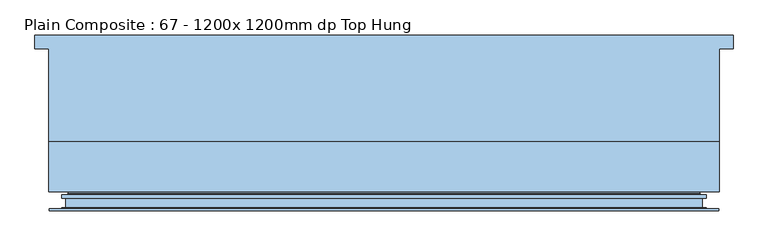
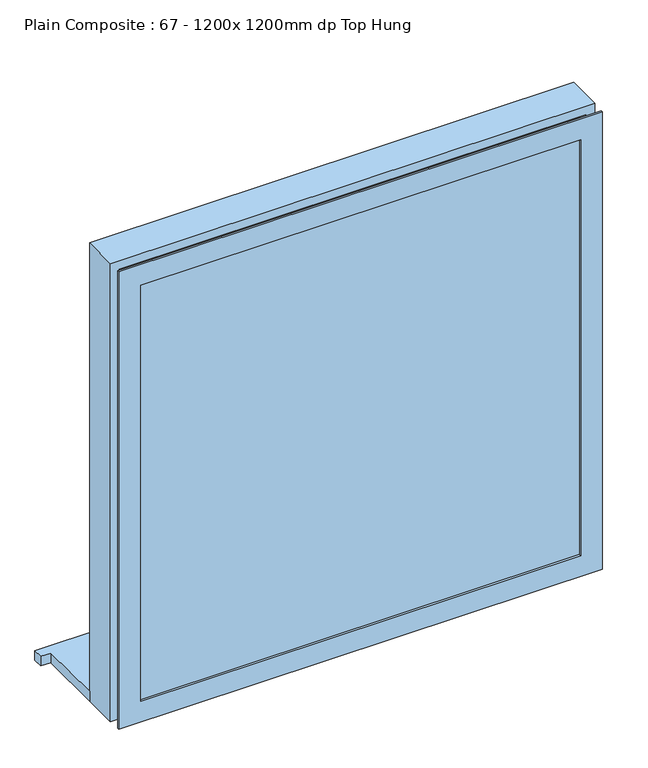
"""IFC4 building model written with IfcOpenShell, lengths in millimetres: window geometry, Plain Composite : 67 - 1200x 1200mm dp Top Hung."""

from ifc_helpers import new_model, si_unit, frame, origin, place, context, project, spatial, polyline, outline, extrude, faceted_brep, source, transform, mapped, element, save


def plain_composite_67_1200x_1200mm_dp_top_hung_607cc014(model_context):
    return source(origin(), model_context, "Body", "SolidModel", [
        extrude(outline(polyline([(-915.0, 161.5434322), (335.0, 161.5434322), (335.0, 136.5434322), (310.0, 136.5434322), (310.0, -29.4565678), (-890.0, -29.4565678), (-890.0, 136.5434322), (-915.0, 136.5434322), (-915.0, 161.5434322)])), frame((0.0, 0.0, 910.0), z_axis=(0.0, 0.0, 1.0), x_axis=(1.0, 0.0, 0.0)), (0.0, 0.0, 1.0), 25.0),
        extrude(outline(polyline([(267.0, -123.4565678), (267.0, -147.4565678), (-847.0, -147.4565678), (-847.0, -123.4565678), (267.0, -123.4565678)])), frame((0.0, 0.0, 953.0), z_axis=(0.0, 0.0, 1.0), x_axis=(1.0, 0.0, 0.0)), (0.0, 0.0, 1.0), 1114.0),
        faceted_brep([(-835.0, -147.4565678, 965.0), (-835.0, -147.4565678, 2055.0), (-835.0, -153.4565678, 2055.0), (-835.0, -153.4565678, 965.0), (-847.0, -123.4565678, 953.0), (-847.0, -123.4565678, 2067.0), (-847.0, -147.4565678, 2067.0), (-847.0, -147.4565678, 953.0), (-835.0, -100.4565678, 965.0), (-835.0, -100.4565678, 2055.0), (-835.0, -123.4565678, 2055.0), (-835.0, -123.4565678, 965.0), (-857.3761005, -103.766907, 942.6238995), (-857.3761005, -103.766907, 2077.3761005), (-857.3761005, -100.4565678, 2077.3761005), (-857.3761005, -100.4565678, 942.6238995), (-855.3055676, -104.9623297, 944.6944324), (-855.3055676, -104.9623297, 2075.3055676), (-855.3055676, -122.3525929, 944.6944324), (-855.3055676, -122.3525929, 2075.3055676), (-860.0, -127.0470253, 940.0), (-860.0, -127.0470253, 2080.0), (-865.0, -125.0470253, 935.0), (-865.0, -125.0470253, 2085.0), (-865.0, -127.0470253, 2085.0), (-865.0, -127.0470253, 935.0), (-867.0, -131.0470253, 933.0), (-867.0, -131.0470253, 2087.0), (-867.0, -125.0470253, 2087.0), (-867.0, -125.0470253, 933.0), (-865.0, -129.0470253, 935.0), (-865.0, -129.0470253, 2085.0), (-865.0, -131.0470253, 2085.0), (-865.0, -131.0470253, 935.0), (-860.0, -149.4565678, 940.0), (-860.0, -149.4565678, 2080.0), (-860.0, -129.0470253, 2080.0), (-860.0, -129.0470253, 940.0), (-865.0, -147.4565678, 935.0), (-865.0, -147.4565678, 2085.0), (-865.0, -149.4565678, 2085.0), (-865.0, -149.4565678, 935.0), (-867.0, -151.4565678, 933.0), (-867.0, -151.4565678, 2087.0), (-867.0, -147.4565678, 2087.0), (-867.0, -147.4565678, 933.0), (-887.0, -149.4565678, 913.0), (-887.0, -149.4565678, 2107.0), (-887.0, -151.4565678, 2107.0), (-887.0, -151.4565678, 913.0), (-889.0, -153.4565678, 911.0), (-889.0, -153.4565678, 2109.0), (-889.0, -149.4565678, 2109.0), (-889.0, -149.4565678, 911.0), (255.0, -147.4565678, 2055.0), (255.0, -153.4565678, 2055.0), (267.0, -123.4565678, 2067.0), (267.0, -147.4565678, 2067.0), (255.0, -100.4565678, 2055.0), (255.0, -123.4565678, 2055.0), (277.3761005, -103.766907, 2077.3761005), (277.3761005, -100.4565678, 2077.3761005), (275.3055676, -104.9623297, 2075.3055676), (275.3055676, -122.3525929, 2075.3055676), (280.0, -127.0470253, 2080.0), (285.0, -125.0470253, 2085.0), (285.0, -127.0470253, 2085.0), (287.0, -131.0470253, 2087.0), (287.0, -125.0470253, 2087.0), (285.0, -129.0470253, 2085.0), (285.0, -131.0470253, 2085.0), (280.0, -149.4565678, 2080.0), (280.0, -129.0470253, 2080.0), (285.0, -147.4565678, 2085.0), (285.0, -149.4565678, 2085.0), (287.0, -151.4565678, 2087.0), (287.0, -147.4565678, 2087.0), (307.0, -149.4565678, 2107.0), (307.0, -151.4565678, 2107.0), (309.0, -153.4565678, 2109.0), (309.0, -149.4565678, 2109.0), (255.0, -147.4565678, 965.0), (255.0, -153.4565678, 965.0), (267.0, -123.4565678, 953.0), (267.0, -147.4565678, 953.0), (255.0, -100.4565678, 965.0), (255.0, -123.4565678, 965.0), (277.3761005, -103.766907, 942.6238995), (277.3761005, -100.4565678, 942.6238995), (275.3055676, -104.9623297, 944.6944324), (275.3055676, -122.3525929, 944.6944324), (280.0, -127.0470253, 940.0), (285.0, -125.0470253, 935.0), (285.0, -127.0470253, 935.0), (287.0, -131.0470253, 933.0), (287.0, -125.0470253, 933.0), (285.0, -129.0470253, 935.0), (285.0, -131.0470253, 935.0), (280.0, -149.4565678, 940.0), (280.0, -129.0470253, 940.0), (285.0, -147.4565678, 935.0), (285.0, -149.4565678, 935.0), (287.0, -151.4565678, 933.0), (287.0, -147.4565678, 933.0), (307.0, -149.4565678, 913.0), (307.0, -151.4565678, 913.0), (309.0, -153.4565678, 911.0), (309.0, -149.4565678, 911.0)], [[[0, 1, 2, 3]], [[4, 5, 6, 7]], [[8, 9, 10, 11]], [[12, 13, 14, 15]], [[16, 17, 13, 12]], [[18, 19, 17, 16]], [[20, 21, 19, 18]], [[22, 23, 24, 25]], [[26, 27, 28, 29]], [[30, 31, 32, 33]], [[34, 35, 36, 37]], [[38, 39, 40, 41]], [[42, 43, 44, 45]], [[46, 47, 48, 49]], [[50, 51, 52, 53]], [[1, 54, 55, 2]], [[5, 56, 57, 6]], [[9, 58, 59, 10]], [[13, 60, 61, 14]], [[17, 62, 60, 13]], [[19, 63, 62, 17]], [[21, 64, 63, 19]], [[23, 65, 66, 24]], [[27, 67, 68, 28]], [[31, 69, 70, 32]], [[35, 71, 72, 36]], [[39, 73, 74, 40]], [[43, 75, 76, 44]], [[47, 77, 78, 48]], [[51, 79, 80, 52]], [[54, 81, 82, 55]], [[56, 83, 84, 57]], [[58, 85, 86, 59]], [[60, 87, 88, 61]], [[62, 89, 87, 60]], [[63, 90, 89, 62]], [[64, 91, 90, 63]], [[65, 92, 93, 66]], [[67, 94, 95, 68]], [[69, 96, 97, 70]], [[71, 98, 99, 72]], [[73, 100, 101, 74]], [[75, 102, 103, 76]], [[77, 104, 105, 78]], [[79, 106, 107, 80]], [[51, 50, 106, 79], [3, 2, 55, 82]], [[81, 0, 3, 82]], [[7, 6, 57, 84], [1, 0, 81, 54]], [[83, 4, 7, 84]], [[5, 4, 83, 56], [11, 10, 59, 86]], [[85, 8, 11, 86]], [[15, 14, 61, 88], [9, 8, 85, 58]], [[87, 12, 15, 88]], [[89, 16, 12, 87]], [[90, 18, 16, 89]], [[91, 20, 18, 90]], [[25, 24, 66, 93], [21, 20, 91, 64]], [[92, 22, 25, 93]], [[29, 28, 68, 95], [23, 22, 92, 65]], [[94, 26, 29, 95]], [[27, 26, 94, 67], [33, 32, 70, 97]], [[96, 30, 33, 97]], [[31, 30, 96, 69], [37, 36, 72, 99]], [[98, 34, 37, 99]], [[41, 40, 74, 101], [35, 34, 98, 71]], [[100, 38, 41, 101]], [[45, 44, 76, 103], [39, 38, 100, 73]], [[102, 42, 45, 103]], [[49, 48, 78, 105], [43, 42, 102, 75]], [[104, 46, 49, 105]], [[53, 52, 80, 107], [47, 46, 104, 77]], [[106, 50, 53, 107]]]),
        faceted_brep([(-890.0, -119.4565678, 910.0), (-890.0, -119.4565678, 2110.0), (-890.0, -29.4565678, 2110.0), (-890.0, -29.4565678, 910.0), (-865.0, -99.4565678, 935.0), (-865.0, -99.4565678, 2085.0), (-867.8108167, -119.4565678, 2087.8108167), (-867.8108167, -119.4565678, 932.1891833), (-840.0, -29.4565678, 960.0), (-840.0, -29.4565678, 2060.0), (-840.0, -99.4565678, 2060.0), (-840.0, -99.4565678, 960.0), (310.0, -119.4565678, 2110.0), (310.0, -29.4565678, 2110.0), (285.0, -99.4565678, 2085.0), (287.8108167, -119.4565678, 2087.8108167), (260.0, -29.4565678, 2060.0), (260.0, -99.4565678, 2060.0), (310.0, -119.4565678, 910.0), (310.0, -29.4565678, 910.0), (285.0, -99.4565678, 935.0), (287.8108167, -119.4565678, 932.1891833), (260.0, -29.4565678, 960.0), (260.0, -99.4565678, 960.0)], [[[0, 1, 2, 3]], [[4, 5, 6, 7]], [[8, 9, 10, 11]], [[1, 12, 13, 2]], [[5, 14, 15, 6]], [[9, 16, 17, 10]], [[12, 18, 19, 13]], [[14, 20, 21, 15]], [[16, 22, 23, 17]], [[3, 2, 13, 19], [9, 8, 22, 16]], [[18, 0, 3, 19]], [[1, 0, 18, 12], [7, 6, 15, 21]], [[20, 4, 7, 21]], [[5, 4, 20, 14], [11, 10, 17, 23]], [[22, 8, 11, 23]]]),
    ])


if __name__ == "__main__":
    model = new_model("IFC4")
    model_context = context("Model", 3, world=origin())
    ifc_project = project(units=[si_unit("LENGTHUNIT", "METRE", prefix="MILLI")], contexts=[model_context])
    site = spatial("IfcSite", under=ifc_project)
    building = spatial("IfcBuilding", under=site)
    placement = place(None, origin())
    plain_composite_67_1200x_1200mm_dp_top_hung_shape = plain_composite_67_1200x_1200mm_dp_top_hung_607cc014(model_context)
    element("IfcWindow", 1, ObjectType="Plain Composite : 67 - 1200x 1200mm dp Top Hung", at=placement, inside=building, context=model_context, shape_type="MappedRepresentation", body=[
        mapped(plain_composite_67_1200x_1200mm_dp_top_hung_shape, transform((0.0, 0.0, 0.0), x_axis=(1.0, 0.0, 0.0), y_axis=(0.0, 1.0, 0.0), z_axis=(0.0, 0.0, 1.0))),
    ])
    save(model, "model.ifc")
